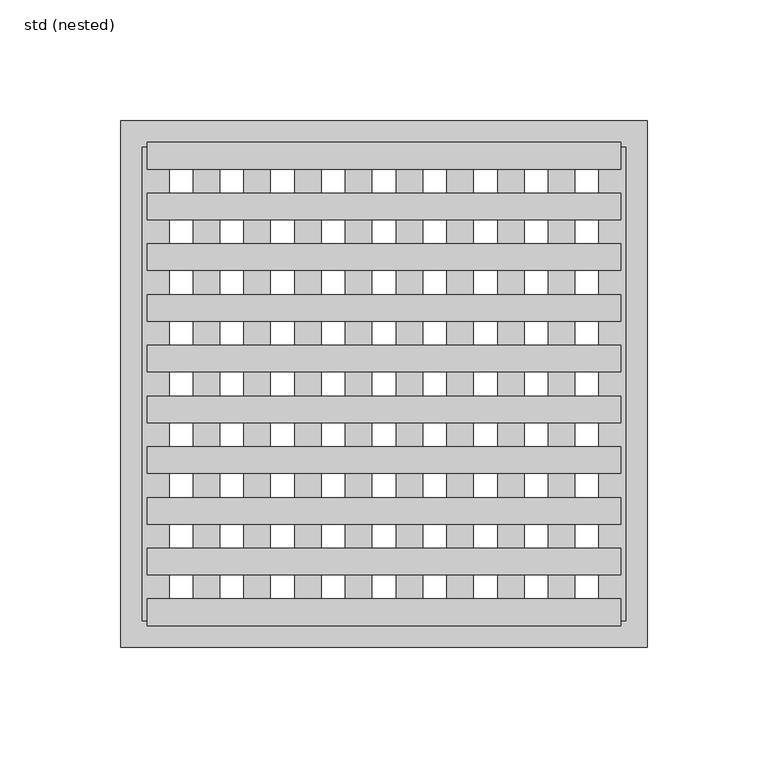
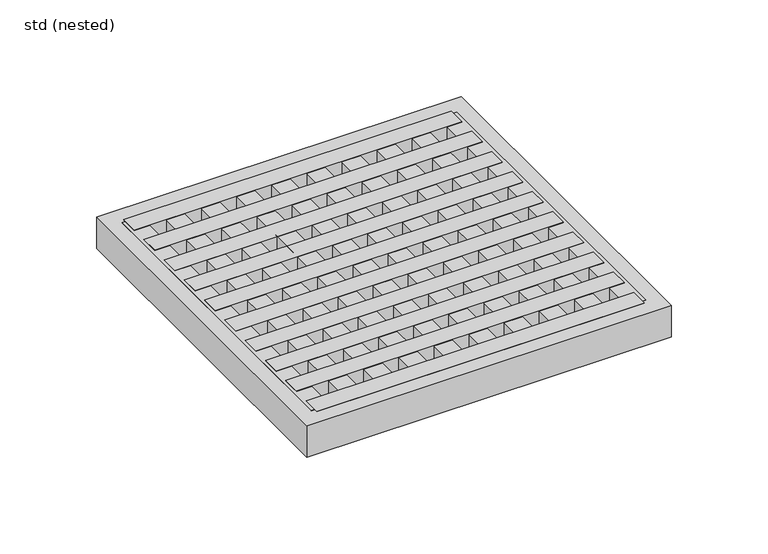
"""IFC4 building model written with IfcOpenShell, lengths in millimetres: sanitary terminal geometry, ZZZ_do not use_PF_ST_UN_square grating for hygienic gully_ACO : std (nested)."""

from ifc_helpers import new_model, si_unit, frame, origin, place, context, project, spatial, polyline, outline, extrude, source, transform, mapped, element, save


def std_nested_c1a20db4(model_context):
    return source(origin(), model_context, "Body", "SweptSolid", [
        extrude(outline(polyline([(-98.0, -100.0), (-98.0, -89.0), (98.0, -89.0), (98.0, -100.0), (-98.0, -100.0)])), frame((0.0, 0.0, -20.0), z_axis=(0.0, 0.0, 1.0), x_axis=(1.0, 0.0, 0.0)), (0.0, 0.0, 1.0), 20.0),
        extrude(outline(polyline([(-98.0, -79.0), (-98.0, -68.0), (98.0, -68.0), (98.0, -79.0), (-98.0, -79.0)])), frame((0.0, 0.0, -20.0), z_axis=(0.0, 0.0, 1.0), x_axis=(1.0, 0.0, 0.0)), (0.0, 0.0, 1.0), 20.0),
        extrude(outline(polyline([(-98.0, -58.0), (-98.0, -47.0), (98.0, -47.0), (98.0, -58.0), (-98.0, -58.0)])), frame((0.0, 0.0, -20.0), z_axis=(0.0, 0.0, 1.0), x_axis=(1.0, 0.0, 0.0)), (0.0, 0.0, 1.0), 20.0),
        extrude(outline(polyline([(-98.0, -37.0), (-98.0, -26.0), (98.0, -26.0), (98.0, -37.0), (-98.0, -37.0)])), frame((0.0, 0.0, -20.0), z_axis=(0.0, 0.0, 1.0), x_axis=(1.0, 0.0, 0.0)), (0.0, 0.0, 1.0), 20.0),
        extrude(outline(polyline([(-98.0, 89.0), (-98.0, 100.0), (98.0, 100.0), (98.0, 89.0), (-98.0, 89.0)])), frame((0.0, 0.0, -20.0), z_axis=(0.0, 0.0, 1.0), x_axis=(1.0, 0.0, 0.0)), (0.0, 0.0, 1.0), 20.0),
        extrude(outline(polyline([(-98.0, 68.0), (-98.0, 79.0), (98.0, 79.0), (98.0, 68.0), (-98.0, 68.0)])), frame((0.0, 0.0, -20.0), z_axis=(0.0, 0.0, 1.0), x_axis=(1.0, 0.0, 0.0)), (0.0, 0.0, 1.0), 20.0),
        extrude(outline(polyline([(-98.0, 47.0), (-98.0, 58.0), (98.0, 58.0), (98.0, 47.0), (-98.0, 47.0)])), frame((0.0, 0.0, -20.0), z_axis=(0.0, 0.0, 1.0), x_axis=(1.0, 0.0, 0.0)), (0.0, 0.0, 1.0), 20.0),
        extrude(outline(polyline([(-98.0, 26.0), (-98.0, 37.0), (98.0, 37.0), (98.0, 26.0), (-98.0, 26.0)])), frame((0.0, 0.0, -20.0), z_axis=(0.0, 0.0, 1.0), x_axis=(1.0, 0.0, 0.0)), (0.0, 0.0, 1.0), 20.0),
        extrude(outline(polyline([(-98.0, 5.0), (-98.0, 16.0), (98.0, 16.0), (98.0, 5.0), (-98.0, 5.0)])), frame((0.0, 0.0, -20.0), z_axis=(0.0, 0.0, 1.0), x_axis=(1.0, 0.0, 0.0)), (0.0, 0.0, 1.0), 20.0),
        extrude(outline(polyline([(-98.0, -16.0), (-98.0, -5.0), (98.0, -5.0), (98.0, -16.0), (-98.0, -16.0)])), frame((0.0, 0.0, -20.0), z_axis=(0.0, 0.0, 1.0), x_axis=(1.0, 0.0, 0.0)), (0.0, 0.0, 1.0), 20.0),
        extrude(outline(polyline([(-89.0, -98.0), (-100.0, -98.0), (-100.0, 98.0), (-89.0, 98.0), (-89.0, -98.0)])), frame((0.0, 0.0, -20.0), z_axis=(0.0, 0.0, 1.0), x_axis=(1.0, 0.0, 0.0)), (0.0, 0.0, 1.0), 20.0),
        extrude(outline(polyline([(-68.0, -98.0), (-79.0, -98.0), (-79.0, 98.0), (-68.0, 98.0), (-68.0, -98.0)])), frame((0.0, 0.0, -20.0), z_axis=(0.0, 0.0, 1.0), x_axis=(1.0, 0.0, 0.0)), (0.0, 0.0, 1.0), 20.0),
        extrude(outline(polyline([(-47.0, -98.0), (-58.0, -98.0), (-58.0, 98.0), (-47.0, 98.0), (-47.0, -98.0)])), frame((0.0, 0.0, -20.0), z_axis=(0.0, 0.0, 1.0), x_axis=(1.0, 0.0, 0.0)), (0.0, 0.0, 1.0), 20.0),
        extrude(outline(polyline([(-26.0, -98.0), (-37.0, -98.0), (-37.0, 98.0), (-26.0, 98.0), (-26.0, -98.0)])), frame((0.0, 0.0, -20.0), z_axis=(0.0, 0.0, 1.0), x_axis=(1.0, 0.0, 0.0)), (0.0, 0.0, 1.0), 20.0),
        extrude(outline(polyline([(100.0, -98.0), (89.0, -98.0), (89.0, 98.0), (100.0, 98.0), (100.0, -98.0)])), frame((0.0, 0.0, -20.0), z_axis=(0.0, 0.0, 1.0), x_axis=(1.0, 0.0, 0.0)), (0.0, 0.0, 1.0), 20.0),
        extrude(outline(polyline([(79.0, -98.0), (68.0, -98.0), (68.0, 98.0), (79.0, 98.0), (79.0, -98.0)])), frame((0.0, 0.0, -20.0), z_axis=(0.0, 0.0, 1.0), x_axis=(1.0, 0.0, 0.0)), (0.0, 0.0, 1.0), 20.0),
        extrude(outline(polyline([(58.0, -98.0), (47.0, -98.0), (47.0, 98.0), (58.0, 98.0), (58.0, -98.0)])), frame((0.0, 0.0, -20.0), z_axis=(0.0, 0.0, 1.0), x_axis=(1.0, 0.0, 0.0)), (0.0, 0.0, 1.0), 20.0),
        extrude(outline(polyline([(37.0, -98.0), (26.0, -98.0), (26.0, 98.0), (37.0, 98.0), (37.0, -98.0)])), frame((0.0, 0.0, -20.0), z_axis=(0.0, 0.0, 1.0), x_axis=(1.0, 0.0, 0.0)), (0.0, 0.0, 1.0), 20.0),
        extrude(outline(polyline([(-5.0, -98.0), (-16.0, -98.0), (-16.0, 98.0), (-5.0, 98.0), (-5.0, -98.0)])), frame((0.0, 0.0, -20.0), z_axis=(0.0, 0.0, 1.0), x_axis=(1.0, 0.0, 0.0)), (0.0, 0.0, 1.0), 20.0),
        extrude(outline(polyline([(16.0, -98.0), (5.0, -98.0), (5.0, 98.0), (16.0, 98.0), (16.0, -98.0)])), frame((0.0, 0.0, -20.0), z_axis=(0.0, 0.0, 1.0), x_axis=(1.0, 0.0, 0.0)), (0.0, 0.0, 1.0), 20.0),
        extrude(outline(polyline([(109.0, 109.0), (109.0, -109.0), (-109.0, -109.0), (-109.0, 109.0), (109.0, 109.0)]), holes=[polyline([(98.0, 98.0), (-98.0, 98.0), (-98.0, -98.0), (98.0, -98.0), (98.0, 98.0)])]), frame((0.0, 0.0, -20.0), z_axis=(0.0, 0.0, 1.0), x_axis=(1.0, 0.0, 0.0)), (0.0, 0.0, 1.0), 20.0),
    ])


if __name__ == "__main__":
    model = new_model("IFC4")
    model_context = context("Model", 3, world=origin())
    ifc_project = project(units=[si_unit("LENGTHUNIT", "METRE", prefix="MILLI")], contexts=[model_context])
    site = spatial("IfcSite", under=ifc_project)
    building = spatial("IfcBuilding", under=site)
    placement = place(None, origin())
    std_nested_shape = std_nested_c1a20db4(model_context)
    element("IfcSanitaryTerminal", 1, ObjectType="ZZZ_do not use_PF_ST_UN_square grating for hygienic gully_ACO : std (nested)", at=placement, inside=building, context=model_context, shape_type="MappedRepresentation", body=[
        mapped(std_nested_shape, transform((0.0, 0.0, 0.0), x_axis=(1.0, 0.0, 0.0), y_axis=(0.0, 1.0, 0.0), z_axis=(0.0, 0.0, 1.0))),
    ])
    save(model, "model.ifc")
